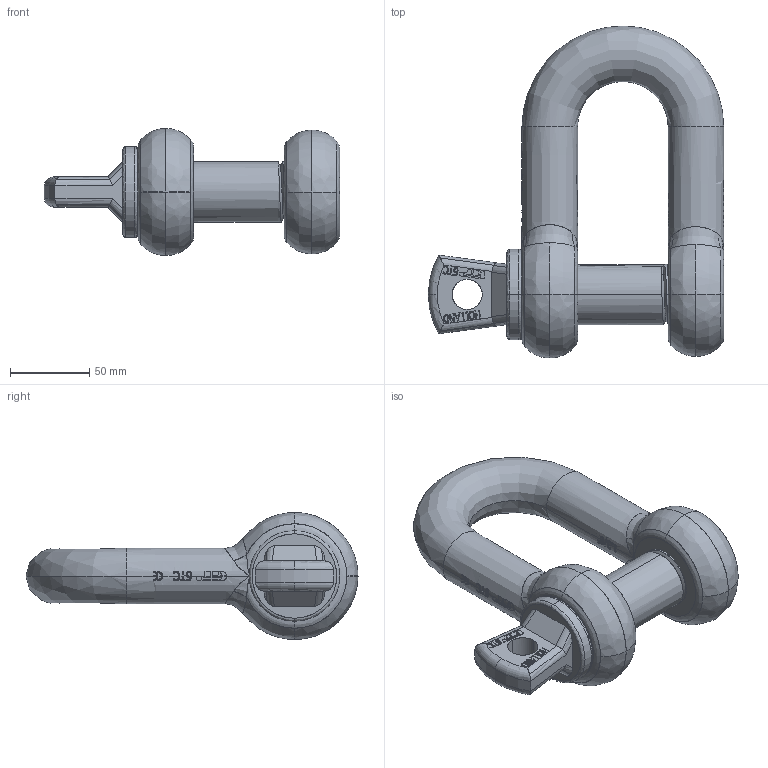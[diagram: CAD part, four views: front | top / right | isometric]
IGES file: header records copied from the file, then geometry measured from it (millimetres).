
Start section: START RECORD GO HERE.
Global section: file name: 13,5.igs; native system: Solidworks 2009      A Version 5 Release 17 ; preprocessor: Solidworks                 ; author: v.b.; organization: P4; date: 20090807.081714; units: millimetre
Bounding box: 186 x 209 x 80 mm (x, y, z)
Surface area: 95934.7 mm2 (no closed solid volume)
Topology: 0 solids, 0 shells, 847 faces, 5747 edges, 5739 vertices
Faces by surface type: bspline 401, plane 290, revolution 156
